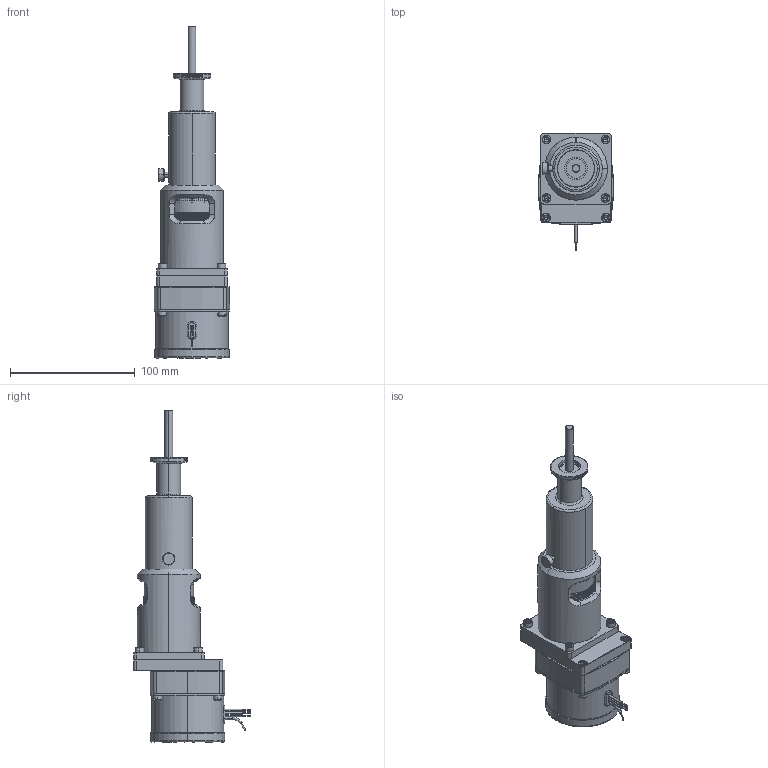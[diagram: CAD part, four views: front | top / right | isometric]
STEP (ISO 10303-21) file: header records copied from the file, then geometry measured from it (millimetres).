
FILE_DESCRIPTION (( 'STEP AP203' ), '1' );
FILE_NAME ('102140.21.stp', '2019-04-18T16:55:01', ( '' ), ( '' ), 'SwSTEP 2.0', 'SolidWorks 2012', '' );
FILE_SCHEMA (( 'CONFIG_CONTROL_DESIGN' ));
Products named in the file (1): 102140.21
Bounding box: 60.33 x 93.89 x 266.47 mm (x, y, z)
Volume: 423200.8 mm3; surface area: 49826.9 mm2
Topology: 1 solids, 8 shells, 1433 faces, 3905 edges, 2543 vertices
Faces by surface type: plane 653, cylinder 480, bspline 167, cone 133
Entity records: 71626 total; most frequent: CARTESIAN_POINT 36535, ORIENTED_EDGE 7786, DIRECTION 6779, EDGE_CURVE 3893, VERTEX_POINT 2543, AXIS2_PLACEMENT_3D 2478, LINE 1823, VECTOR 1823
